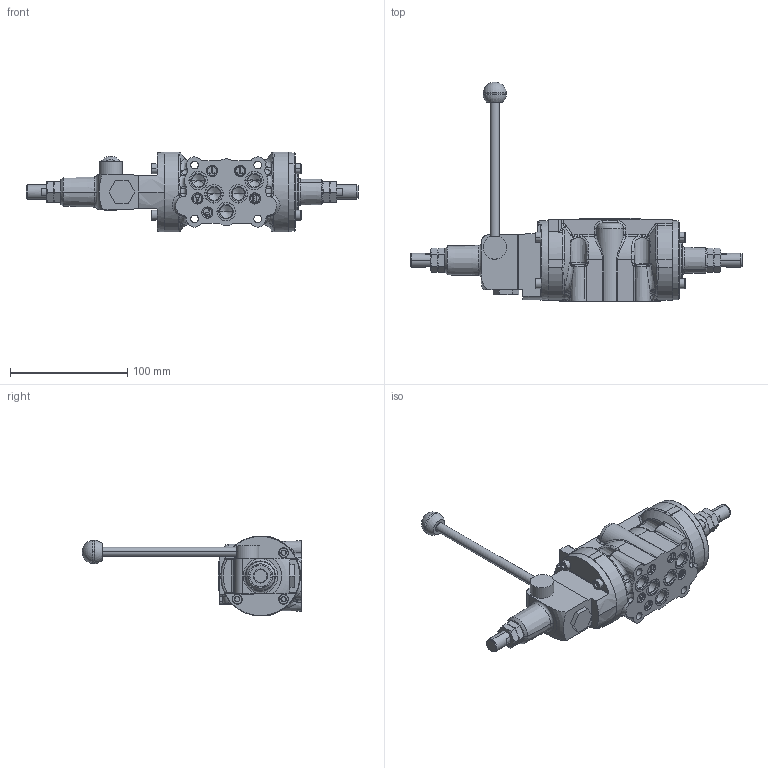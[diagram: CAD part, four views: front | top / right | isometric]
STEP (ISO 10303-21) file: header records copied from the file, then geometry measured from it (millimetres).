
FILE_DESCRIPTION((''),'2;1');
FILE_NAME('SESTAVA_296831_ODL_PRIRUB_KUL_ASM','2015-06-08T',('j.koudelka'),(''),'PRO/ENGINEER BY PARAMETRIC TECHNOLOGY CORPORATION, 2014090','PRO/ENGINEER BY PARAMETRIC TECHNOLOGY CORPORATION, 2014090','');
FILE_SCHEMA(('AUTOMOTIVE_DESIGN { 1 0 10303 214 1 1 1 1 }'));
Products named in the file (13): BODY; 29489902; OVLADACI_CEP; PAKA_1; BAKELIT_KOULE; 29490002; ZATKA_29490800; CSN021143M5X14; STITEK; DKAR00014; SNIMAC_PLOSKON; CSN_021403_M12; SESTAVA_296831_ODL_PRIRUB_KUL_ASM
Assembly tree (27 placements, depth 2):
  SESTAVA_296831_ODL_PRIRUB_KUL_ASM
    BODY
    29489902
    OVLADACI_CEP
    PAKA_1
    BAKELIT_KOULE
    29490002
    ZATKA_29490800
    CSN021143M5X14  x8
    STITEK
    DKAR00014  x5
    SNIMAC_PLOSKON  x2
    CSN_021403_M12  x4
Bounding box: 283.3 x 187.36 x 68.21 mm (x, y, z)
Volume: 504169.6 mm3; surface area: 110809.8 mm2
Topology: 29 solids, 51 shells, 1168 faces, 2790 edges, 1835 vertices
Faces by surface type: plane 372, cylinder 314, cone 174, bspline 166, torus 129, sphere 13
Entity records: 41711 total; most frequent: CARTESIAN_POINT 21587, DIRECTION 3937, ORIENTED_EDGE 3868, EDGE_CURVE 1956, AXIS2_PLACEMENT_3D 1553, VERTEX_POINT 1204, EDGE_LOOP 944, FACE_OUTER_BOUND 838
